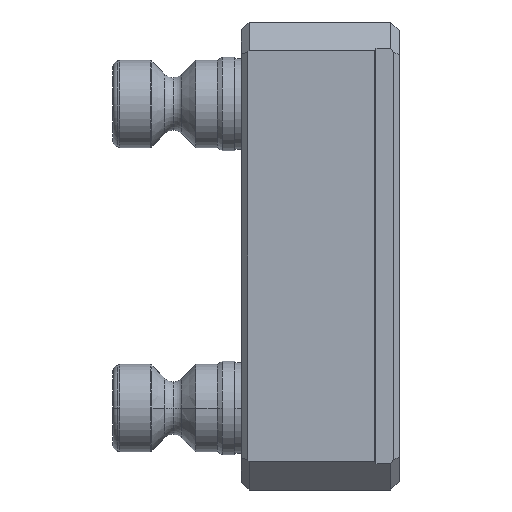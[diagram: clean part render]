
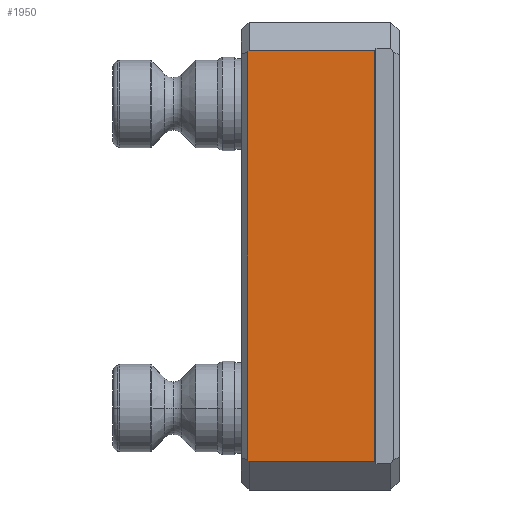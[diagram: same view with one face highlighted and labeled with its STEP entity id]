
A CAD part, left-side view. The second image highlights one B-rep face of the part: STEP entity #1950.
In plain terms, the highlighted planar face has unit normal (-1, 0, 0).
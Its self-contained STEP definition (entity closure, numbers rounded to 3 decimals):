
#23 = EDGE_CURVE ( 'NONE', #4281, #4292, #4289, .T. ) ;
#99 = VERTEX_POINT ( 'NONE', #997 ) ;
#237 = CARTESIAN_POINT ( 'NONE',  ( -40., 23.5, 35.2 ) ) ;
#249 = CARTESIAN_POINT ( 'NONE',  ( -40., 2., -40. ) ) ;
#304 = CARTESIAN_POINT ( 'NONE',  ( -40., 23.7, 34.917 ) ) ;
#328 = CARTESIAN_POINT ( 'NONE',  ( -40., 25., -35.2 ) ) ;
#335 = CARTESIAN_POINT ( 'NONE',  ( -40., 42.272, 8.652 ) ) ;
#352 = LINE ( 'NONE', #328, #4132 ) ;
#370 = CARTESIAN_POINT ( 'NONE',  ( -40., 23.7, -40. ) ) ;
#499 = VERTEX_POINT ( 'NONE', #237 ) ;
#749 = LINE ( 'NONE', #335, #4145 ) ;
#801 = ORIENTED_EDGE ( 'NONE', *, *, #23, .T. ) ;
#946 = DIRECTION ( 'NONE',  ( 0., 1., 0. ) ) ;
#975 = CARTESIAN_POINT ( 'NONE',  ( -40., -2.2, -40. ) ) ;
#977 = VECTOR ( 'NONE', #2812, 1000. ) ;
#984 = ORIENTED_EDGE ( 'NONE', *, *, #3266, .T. ) ;
#997 = CARTESIAN_POINT ( 'NONE',  ( -40., 2., 35.2 ) ) ;
#1021 = PLANE ( 'NONE',  #3032 ) ;
#1168 = LINE ( 'NONE', #370, #3562 ) ;
#1190 = DIRECTION ( 'NONE',  ( 0., 0., -1. ) ) ;
#1321 = LINE ( 'NONE', #2868, #4655 ) ;
#1383 = EDGE_CURVE ( 'NONE', #499, #2762, #749, .T. ) ;
#1397 = DIRECTION ( 'NONE',  ( 0., 0., -1. ) ) ;
#1545 = EDGE_LOOP ( 'NONE', ( #3508, #1810, #801, #4025, #984, #3290 ) ) ;
#1810 = ORIENTED_EDGE ( 'NONE', *, *, #3401, .T. ) ;
#1823 = DIRECTION ( 'NONE',  ( 0., -1., 0. ) ) ;
#1863 = EDGE_CURVE ( 'NONE', #99, #499, #1321, .T. ) ;
#1950 = ADVANCED_FACE ( 'NONE', ( #4872 ), #1021, .F. ) ;
#2212 = DIRECTION ( 'NONE',  ( 0., 0.577, -0.816 ) ) ;
#2432 = CARTESIAN_POINT ( 'NONE',  ( -40., 23.416, -35.319 ) ) ;
#2515 = VECTOR ( 'NONE', #4178, 1000. ) ;
#2595 = CARTESIAN_POINT ( 'NONE',  ( -40., 2., -35.2 ) ) ;
#2762 = VERTEX_POINT ( 'NONE', #304 ) ;
#2812 = DIRECTION ( 'NONE',  ( 0., -0.577, -0.816 ) ) ;
#2868 = CARTESIAN_POINT ( 'NONE',  ( -40., 0., 35.2 ) ) ;
#3032 = AXIS2_PLACEMENT_3D ( 'NONE', #975, #3660, #1397 ) ;
#3266 = EDGE_CURVE ( 'NONE', #4350, #99, #3413, .T. ) ;
#3290 = ORIENTED_EDGE ( 'NONE', *, *, #1863, .T. ) ;
#3401 = EDGE_CURVE ( 'NONE', #2762, #4281, #1168, .T. ) ;
#3413 = LINE ( 'NONE', #249, #2515 ) ;
#3508 = ORIENTED_EDGE ( 'NONE', *, *, #1383, .T. ) ;
#3562 = VECTOR ( 'NONE', #1190, 1000. ) ;
#3660 = DIRECTION ( 'NONE',  ( 1., 0., 0. ) ) ;
#4025 = ORIENTED_EDGE ( 'NONE', *, *, #4359, .T. ) ;
#4132 = VECTOR ( 'NONE', #1823, 1000. ) ;
#4145 = VECTOR ( 'NONE', #2212, 1000. ) ;
#4178 = DIRECTION ( 'NONE',  ( 0., 0., 1. ) ) ;
#4281 = VERTEX_POINT ( 'NONE', #4924 ) ;
#4289 = LINE ( 'NONE', #2432, #977 ) ;
#4292 = VERTEX_POINT ( 'NONE', #4517 ) ;
#4350 = VERTEX_POINT ( 'NONE', #2595 ) ;
#4359 = EDGE_CURVE ( 'NONE', #4292, #4350, #352, .T. ) ;
#4517 = CARTESIAN_POINT ( 'NONE',  ( -40., 23.5, -35.2 ) ) ;
#4655 = VECTOR ( 'NONE', #946, 1000. ) ;
#4872 = FACE_OUTER_BOUND ( 'NONE', #1545, .T. ) ;
#4924 = CARTESIAN_POINT ( 'NONE',  ( -40., 23.7, -34.917 ) ) ;
